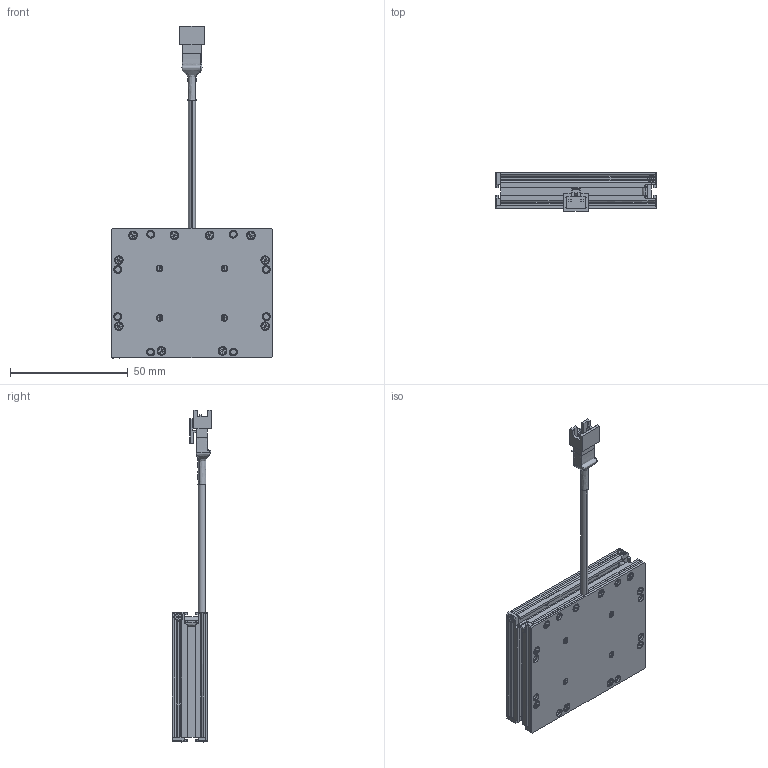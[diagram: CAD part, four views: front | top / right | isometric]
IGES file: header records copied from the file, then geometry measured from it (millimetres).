
Start section: SolidWorks IGES file using analytic representation for surfaces
Global section: file name: C:\Users\user\Downloads\TEMP_STEP\VDF-5542_Drawing_L1179A-A00100.IGS; native system: SolidWorks 2018; preprocessor: SolidWorks 2018; author: user; date: 231221.060655; units: millimetre
Bounding box: 68 x 16.55 x 140.74 mm (x, y, z)
Surface area: 24562.3 mm2 (no closed solid volume)
Topology: 0 solids, 0 shells, 688 faces, 7712 edges, 7712 vertices
Faces by surface type: bspline 468, revolution 220
